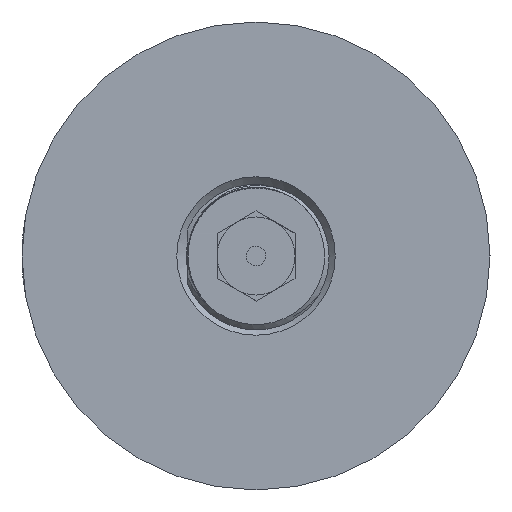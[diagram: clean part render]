
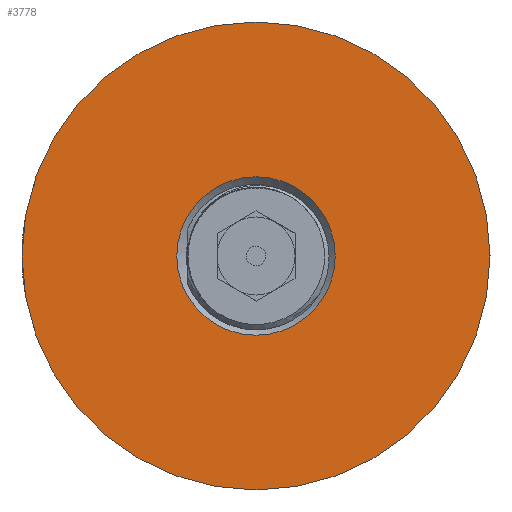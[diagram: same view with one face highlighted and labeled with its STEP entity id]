
A CAD part, left-side view. The second image highlights one B-rep face of the part: STEP entity #3778.
In plain terms, the highlighted planar face has unit normal (-1, 0, 0).
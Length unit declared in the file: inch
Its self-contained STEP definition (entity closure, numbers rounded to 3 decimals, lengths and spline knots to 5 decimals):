
#74=FACE_BOUND('',#536,.T.);
#154=PLANE('',#4087);
#329=FACE_OUTER_BOUND('',#535,.T.);
#535=EDGE_LOOP('',(#3185));
#536=EDGE_LOOP('',(#3186));
#700=CIRCLE('',#4084,0.75);
#702=CIRCLE('',#4088,0.254);
#1630=VERTEX_POINT('',#17906);
#1634=VERTEX_POINT('',#17952);
#2188=EDGE_CURVE('',#1630,#1630,#700,.T.);
#2193=EDGE_CURVE('',#1634,#1634,#702,.T.);
#3185=ORIENTED_EDGE('',*,*,#2188,.T.);
#3186=ORIENTED_EDGE('',*,*,#2193,.F.);
#3778=ADVANCED_FACE('',(#329,#74),#154,.T.);
#4084=AXIS2_PLACEMENT_3D('',#17908,#4727,#4728);
#4087=AXIS2_PLACEMENT_3D('',#17951,#4734,#4735);
#4088=AXIS2_PLACEMENT_3D('',#17953,#4736,#4737);
#4727=DIRECTION('center_axis',(-1.,0.,0.));
#4728=DIRECTION('ref_axis',(0.,1.,0.));
#4734=DIRECTION('center_axis',(-1.,0.,0.));
#4735=DIRECTION('ref_axis',(0.,1.,0.));
#4736=DIRECTION('center_axis',(-1.,0.,0.));
#4737=DIRECTION('ref_axis',(0.,-1.,0.));
#17906=CARTESIAN_POINT('',(-0.87651,-0.75,0.));
#17908=CARTESIAN_POINT('Origin',(-0.87651,0.,
0.));
#17951=CARTESIAN_POINT('Origin',(-0.87651,0.,
0.));
#17952=CARTESIAN_POINT('',(-0.87651,0.254,0.));
#17953=CARTESIAN_POINT('Origin',(-0.87651,0.,
0.));
